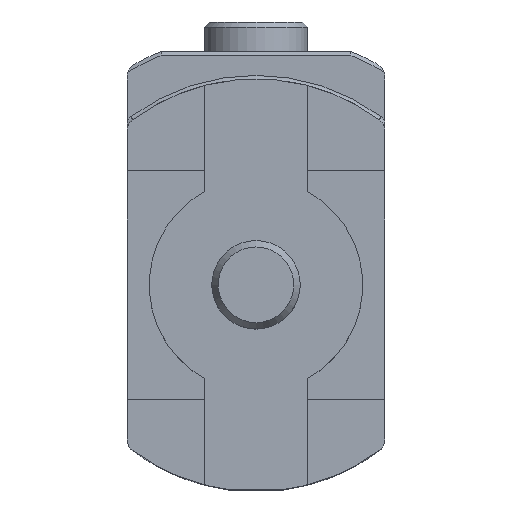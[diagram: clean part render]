
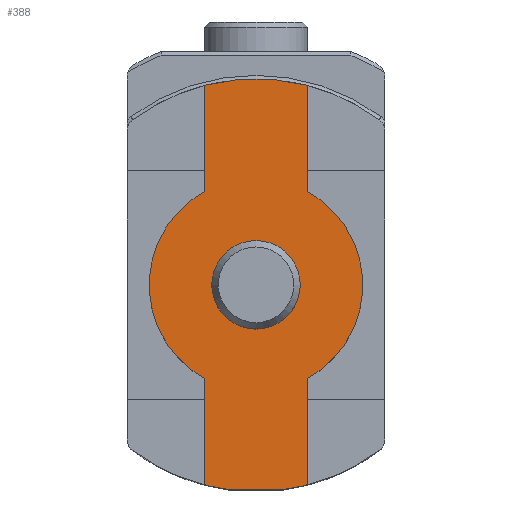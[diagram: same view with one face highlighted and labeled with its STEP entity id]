
A CAD part, top view. The second image highlights one B-rep face of the part: STEP entity #388.
In plain terms, the highlighted planar face has unit normal (0, 0, 1).
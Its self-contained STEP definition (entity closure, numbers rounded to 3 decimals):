
#41 = AXIS2_PLACEMENT_3D ( 'NONE', #2096, #1695, #2280 ) ;
#74 = VECTOR ( 'NONE', #1344, 1000. ) ;
#78 = EDGE_CURVE ( 'NONE', #365, #1946, #1264, .T. ) ;
#82 = LINE ( 'NONE', #841, #2552 ) ;
#91 = CARTESIAN_POINT ( 'NONE',  ( -5., 0., 45.5 ) ) ;
#97 = DIRECTION ( 'NONE',  ( 0., -1., 0. ) ) ;
#117 = DIRECTION ( 'NONE',  ( 1., 0., 0. ) ) ;
#143 = FACE_OUTER_BOUND ( 'NONE', #882, .T. ) ;
#161 = CARTESIAN_POINT ( 'NONE',  ( 7., -12.698, 45.5 ) ) ;
#223 = EDGE_CURVE ( 'NONE', #1733, #333, #1368, .T. ) ;
#228 = CARTESIAN_POINT ( 'NONE',  ( 7., -27.111, 45.5 ) ) ;
#255 = ORIENTED_EDGE ( 'NONE', *, *, #78, .T. ) ;
#256 = VERTEX_POINT ( 'NONE', #91 ) ;
#257 = ORIENTED_EDGE ( 'NONE', *, *, #1732, .T. ) ;
#318 = CARTESIAN_POINT ( 'NONE',  ( -3.733, -27.75, 45.5 ) ) ;
#333 = VERTEX_POINT ( 'NONE', #161 ) ;
#355 = VERTEX_POINT ( 'NONE', #2201 ) ;
#365 = VERTEX_POINT ( 'NONE', #318 ) ;
#388 = ADVANCED_FACE ( 'NONE', ( #1899, #143 ), #485, .T. ) ;
#419 = CIRCLE ( 'NONE', #762, 28. ) ;
#433 = EDGE_CURVE ( 'NONE', #355, #1033, #505, .T. ) ;
#471 = CARTESIAN_POINT ( 'NONE',  ( 7., 27.111, 45.5 ) ) ;
#485 = PLANE ( 'NONE',  #867 ) ;
#495 = AXIS2_PLACEMENT_3D ( 'NONE', #2566, #1558, #1361 ) ;
#505 = LINE ( 'NONE', #903, #1447 ) ;
#511 = CARTESIAN_POINT ( 'NONE',  ( 3.733, -27.75, 45.5 ) ) ;
#516 = CARTESIAN_POINT ( 'NONE',  ( 7., 12.698, 45.5 ) ) ;
#646 = DIRECTION ( 'NONE',  ( 0., 0., 1. ) ) ;
#650 = EDGE_CURVE ( 'NONE', #2418, #2582, #82, .T. ) ;
#704 = VECTOR ( 'NONE', #117, 1000. ) ;
#711 = CIRCLE ( 'NONE', #1002, 5. ) ;
#743 = ORIENTED_EDGE ( 'NONE', *, *, #1459, .T. ) ;
#762 = AXIS2_PLACEMENT_3D ( 'NONE', #2432, #646, #1016 ) ;
#841 = CARTESIAN_POINT ( 'NONE',  ( -7., -27.111, 45.5 ) ) ;
#848 = CARTESIAN_POINT ( 'NONE',  ( 0., 0., 45.5 ) ) ;
#867 = AXIS2_PLACEMENT_3D ( 'NONE', #1088, #2196, #1822 ) ;
#881 = CARTESIAN_POINT ( 'NONE',  ( -3.733, -27.75, 45.5 ) ) ;
#882 = EDGE_LOOP ( 'NONE', ( #1089, #1719, #2324, #2329, #257, #2520, #1292, #255, #743, #1506 ) ) ;
#903 = CARTESIAN_POINT ( 'NONE',  ( -7., 12.698, 45.5 ) ) ;
#964 = CIRCLE ( 'NONE', #2338, 28. ) ;
#968 = VECTOR ( 'NONE', #2523, 1000. ) ;
#1002 = AXIS2_PLACEMENT_3D ( 'NONE', #1117, #2169, #1965 ) ;
#1016 = DIRECTION ( 'NONE',  ( 1., 0., 0. ) ) ;
#1021 = EDGE_CURVE ( 'NONE', #256, #256, #711, .T. ) ;
#1033 = VERTEX_POINT ( 'NONE', #2585 ) ;
#1036 = CARTESIAN_POINT ( 'NONE',  ( 7., 12.698, 45.5 ) ) ;
#1078 = AXIS2_PLACEMENT_3D ( 'NONE', #2214, #2011, #2554 ) ;
#1088 = CARTESIAN_POINT ( 'NONE',  ( 0., 0., 45.5 ) ) ;
#1089 = ORIENTED_EDGE ( 'NONE', *, *, #1552, .T. ) ;
#1105 = CARTESIAN_POINT ( 'NONE',  ( -7., -12.698, 45.5 ) ) ;
#1117 = CARTESIAN_POINT ( 'NONE',  ( 0., 0., 45.5 ) ) ;
#1164 = CARTESIAN_POINT ( 'NONE',  ( 7., -27.111, 45.5 ) ) ;
#1264 = LINE ( 'NONE', #881, #704 ) ;
#1287 = CIRCLE ( 'NONE', #41, 14.5 ) ;
#1292 = ORIENTED_EDGE ( 'NONE', *, *, #1987, .T. ) ;
#1344 = DIRECTION ( 'NONE',  ( 0., 1., 0. ) ) ;
#1361 = DIRECTION ( 'NONE',  ( 1., 0., 0. ) ) ;
#1368 = LINE ( 'NONE', #1164, #74 ) ;
#1413 = CIRCLE ( 'NONE', #495, 28. ) ;
#1447 = VECTOR ( 'NONE', #1531, 1000. ) ;
#1459 = EDGE_CURVE ( 'NONE', #1946, #1733, #419, .T. ) ;
#1468 = DIRECTION ( 'NONE',  ( 0., 0., 1. ) ) ;
#1496 = EDGE_CURVE ( 'NONE', #1736, #2225, #2296, .T. ) ;
#1506 = ORIENTED_EDGE ( 'NONE', *, *, #223, .T. ) ;
#1531 = DIRECTION ( 'NONE',  ( 0., -1., 0. ) ) ;
#1552 = EDGE_CURVE ( 'NONE', #333, #1736, #1287, .T. ) ;
#1558 = DIRECTION ( 'NONE',  ( 0., 0., 1. ) ) ;
#1695 = DIRECTION ( 'NONE',  ( 0., 0., 1. ) ) ;
#1719 = ORIENTED_EDGE ( 'NONE', *, *, #1496, .T. ) ;
#1732 = EDGE_CURVE ( 'NONE', #1033, #2418, #2408, .T. ) ;
#1733 = VERTEX_POINT ( 'NONE', #228 ) ;
#1736 = VERTEX_POINT ( 'NONE', #1036 ) ;
#1822 = DIRECTION ( 'NONE',  ( 1., 0., 0. ) ) ;
#1832 = DIRECTION ( 'NONE',  ( 1., 0., 0. ) ) ;
#1899 = FACE_BOUND ( 'NONE', #1927, .T. ) ;
#1927 = EDGE_LOOP ( 'NONE', ( #2315 ) ) ;
#1946 = VERTEX_POINT ( 'NONE', #511 ) ;
#1965 = DIRECTION ( 'NONE',  ( -1., 0., 0. ) ) ;
#1987 = EDGE_CURVE ( 'NONE', #2582, #365, #1413, .T. ) ;
#2011 = DIRECTION ( 'NONE',  ( 0., 0., 1. ) ) ;
#2096 = CARTESIAN_POINT ( 'NONE',  ( 0., 0., 45.5 ) ) ;
#2169 = DIRECTION ( 'NONE',  ( 0., 0., -1. ) ) ;
#2196 = DIRECTION ( 'NONE',  ( 0., 0., 1. ) ) ;
#2201 = CARTESIAN_POINT ( 'NONE',  ( -7., 27.111, 45.5 ) ) ;
#2214 = CARTESIAN_POINT ( 'NONE',  ( 0., 0., 45.5 ) ) ;
#2225 = VERTEX_POINT ( 'NONE', #471 ) ;
#2256 = CARTESIAN_POINT ( 'NONE',  ( -7., -27.111, 45.5 ) ) ;
#2265 = EDGE_CURVE ( 'NONE', #2225, #355, #964, .T. ) ;
#2280 = DIRECTION ( 'NONE',  ( 1., 0., 0. ) ) ;
#2296 = LINE ( 'NONE', #516, #968 ) ;
#2315 = ORIENTED_EDGE ( 'NONE', *, *, #1021, .T. ) ;
#2324 = ORIENTED_EDGE ( 'NONE', *, *, #2265, .T. ) ;
#2329 = ORIENTED_EDGE ( 'NONE', *, *, #433, .T. ) ;
#2338 = AXIS2_PLACEMENT_3D ( 'NONE', #848, #1468, #1832 ) ;
#2408 = CIRCLE ( 'NONE', #1078, 14.5 ) ;
#2418 = VERTEX_POINT ( 'NONE', #1105 ) ;
#2432 = CARTESIAN_POINT ( 'NONE',  ( 0., 0., 45.5 ) ) ;
#2520 = ORIENTED_EDGE ( 'NONE', *, *, #650, .T. ) ;
#2523 = DIRECTION ( 'NONE',  ( 0., 1., 0. ) ) ;
#2552 = VECTOR ( 'NONE', #97, 1000. ) ;
#2554 = DIRECTION ( 'NONE',  ( 1., 0., 0. ) ) ;
#2566 = CARTESIAN_POINT ( 'NONE',  ( 0., 0., 45.5 ) ) ;
#2582 = VERTEX_POINT ( 'NONE', #2256 ) ;
#2585 = CARTESIAN_POINT ( 'NONE',  ( -7., 12.698, 45.5 ) ) ;
